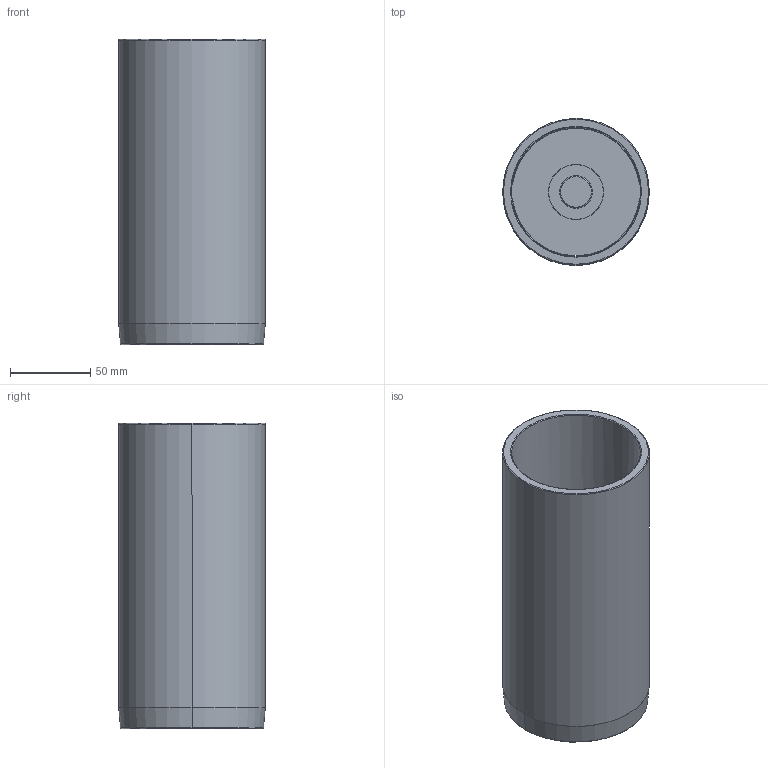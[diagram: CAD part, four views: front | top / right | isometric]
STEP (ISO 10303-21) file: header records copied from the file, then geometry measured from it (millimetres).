
FILE_DESCRIPTION((''),'2;1');
FILE_NAME('C12_080_190.stp','2009-01-29T09:37:27',(''),(''),'Mechanical Desktop 2009','Mechanical Desktop 2009',', , ');
FILE_SCHEMA(('CONFIG_CONTROL_DESIGN'));
Length unit declared in the file: millimetre
Products named in the file (2): Product; blmdl1
Assembly tree (1 placements, depth 2):
  Product
    blmdl1
Bounding box: 91.25 x 91.25 x 190 mm (x, y, z)
Volume: 307133 mm3; surface area: 126690.1 mm2
Topology: 5 solids, 5 shells, 79 faces, 200 edges, 134 vertices
Faces by surface type: cylinder 34, plane 29, torus 10, cone 6
Entity records: 2585 total; most frequent: DIRECTION 480, CARTESIAN_POINT 435, ORIENTED_EDGE 400, AXIS2_PLACEMENT_3D 203, EDGE_CURVE 200, VERTEX_POINT 134, CIRCLE 122, EDGE_LOOP 92
